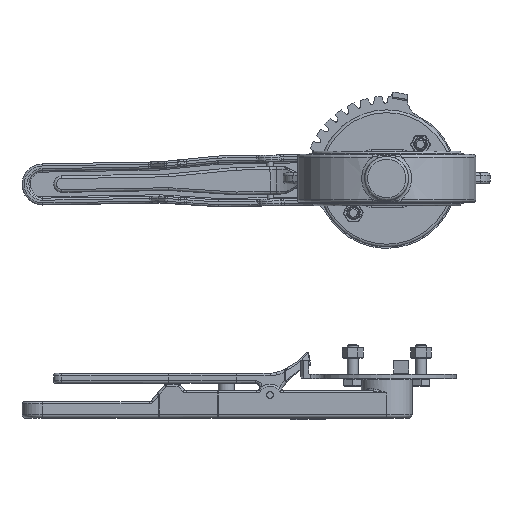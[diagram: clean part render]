
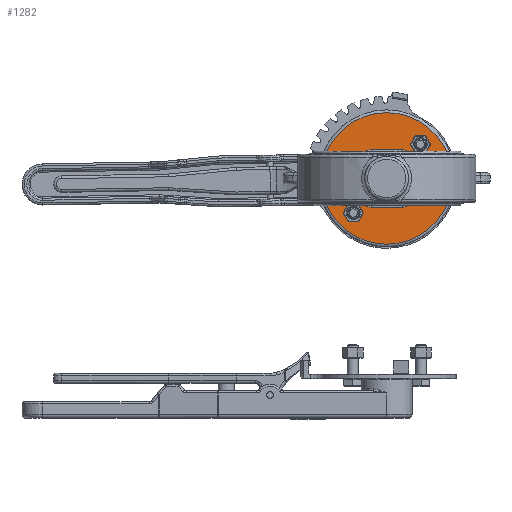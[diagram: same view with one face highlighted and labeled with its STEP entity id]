
A CAD part, front view. The second image highlights one B-rep face of the part: STEP entity #1282.
In plain terms, the highlighted planar face has unit normal (0, -1, 0).
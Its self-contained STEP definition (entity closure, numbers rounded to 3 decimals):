
#1282 = ADVANCED_FACE( '', ( #3282, #3283, #3284, #3285 ), #3286, .T. );
#3282 = FACE_BOUND( '', #6923, .T. );
#3283 = FACE_BOUND( '', #6924, .T. );
#3284 = FACE_OUTER_BOUND( '', #6925, .T. );
#3285 = FACE_BOUND( '', #6926, .T. );
#3286 = PLANE( '', #6927 );
#6923 = EDGE_LOOP( '', ( #15069 ) );
#6924 = EDGE_LOOP( '', ( #15070, #15071, #15072, #15073, #15074, #15075, #15076, #15077 ) );
#6925 = EDGE_LOOP( '', ( #15078 ) );
#6926 = EDGE_LOOP( '', ( #15079 ) );
#6927 = AXIS2_PLACEMENT_3D( '', #15080, #15081, #15082 );
#15069 = ORIENTED_EDGE( '', *, *, #23327, .T. );
#15070 = ORIENTED_EDGE( '', *, *, #23328, .T. );
#15071 = ORIENTED_EDGE( '', *, *, #22891, .T. );
#15072 = ORIENTED_EDGE( '', *, *, #23329, .T. );
#15073 = ORIENTED_EDGE( '', *, *, #23330, .T. );
#15074 = ORIENTED_EDGE( '', *, *, #23331, .T. );
#15075 = ORIENTED_EDGE( '', *, *, #23332, .T. );
#15076 = ORIENTED_EDGE( '', *, *, #23333, .T. );
#15077 = ORIENTED_EDGE( '', *, *, #23334, .T. );
#15078 = ORIENTED_EDGE( '', *, *, #23335, .T. );
#15079 = ORIENTED_EDGE( '', *, *, #23336, .T. );
#15080 = CARTESIAN_POINT( '', ( 0., 151., 0. ) );
#15081 = DIRECTION( '', ( 0., -1., 0. ) );
#15082 = DIRECTION( '', ( 0., 0., -1. ) );
#22891 = EDGE_CURVE( '', #25928, #25926, #25929, .F. );
#23327 = EDGE_CURVE( '', #26678, #26678, #26679, .F. );
#23328 = EDGE_CURVE( '', #26680, #25928, #26681, .F. );
#23329 = EDGE_CURVE( '', #25926, #26682, #26683, .F. );
#23330 = EDGE_CURVE( '', #26682, #26684, #26685, .F. );
#23331 = EDGE_CURVE( '', #26684, #26686, #26687, .F. );
#23332 = EDGE_CURVE( '', #26686, #26688, #26689, .F. );
#23333 = EDGE_CURVE( '', #26688, #26690, #26691, .F. );
#23334 = EDGE_CURVE( '', #26690, #26680, #26692, .F. );
#23335 = EDGE_CURVE( '', #26693, #26693, #26694, .T. );
#23336 = EDGE_CURVE( '', #26695, #26695, #26696, .F. );
#25926 = VERTEX_POINT( '', #31580 );
#25928 = VERTEX_POINT( '', #31582 );
#25929 = LINE( '', #31583, #31584 );
#26678 = VERTEX_POINT( '', #34809 );
#26679 = CIRCLE( '', #34810, 4.5 );
#26680 = VERTEX_POINT( '', #34811 );
#26681 = CIRCLE( '', #34812, 7. );
#26682 = VERTEX_POINT( '', #34813 );
#26683 = CIRCLE( '', #34814, 7. );
#26684 = VERTEX_POINT( '', #34815 );
#26685 = CIRCLE( '', #34816, 25. );
#26686 = VERTEX_POINT( '', #34817 );
#26687 = CIRCLE( '', #34818, 7. );
#26688 = VERTEX_POINT( '', #34819 );
#26689 = LINE( '', #34820, #34821 );
#26690 = VERTEX_POINT( '', #34822 );
#26691 = CIRCLE( '', #34823, 7. );
#26692 = CIRCLE( '', #34824, 25. );
#26693 = VERTEX_POINT( '', #34825 );
#26694 = CIRCLE( '', #34826, 48. );
#26695 = VERTEX_POINT( '', #34827 );
#26696 = CIRCLE( '', #34828, 4.5 );
#31580 = CARTESIAN_POINT( '', ( -11.314, 151., -21. ) );
#31582 = CARTESIAN_POINT( '', ( 11.314, 151., -21. ) );
#31583 = CARTESIAN_POINT( '', ( 0., 151., -21. ) );
#31584 = VECTOR( '', #45076, 1000. );
#34809 = CARTESIAN_POINT( '', ( 24.749, 151., 20.249 ) );
#34810 = AXIS2_PLACEMENT_3D( '', #45607, #45608, #45609 );
#34811 = CARTESIAN_POINT( '', ( 15.713, 151., -19.444 ) );
#34812 = AXIS2_PLACEMENT_3D( '', #45610, #45611, #45612 );
#34813 = CARTESIAN_POINT( '', ( -15.713, 151., -19.444 ) );
#34814 = AXIS2_PLACEMENT_3D( '', #45613, #45614, #45615 );
#34815 = CARTESIAN_POINT( '', ( -15.713, 151., 19.444 ) );
#34816 = AXIS2_PLACEMENT_3D( '', #45616, #45617, #45618 );
#34817 = CARTESIAN_POINT( '', ( -11.314, 151., 21. ) );
#34818 = AXIS2_PLACEMENT_3D( '', #45619, #45620, #45621 );
#34819 = CARTESIAN_POINT( '', ( 11.314, 151., 21. ) );
#34820 = CARTESIAN_POINT( '', ( 0., 151., 21. ) );
#34821 = VECTOR( '', #45622, 1000. );
#34822 = CARTESIAN_POINT( '', ( 15.713, 151., 19.444 ) );
#34823 = AXIS2_PLACEMENT_3D( '', #45623, #45624, #45625 );
#34824 = AXIS2_PLACEMENT_3D( '', #45626, #45627, #45628 );
#34825 = CARTESIAN_POINT( '', ( 0., 151., -48. ) );
#34826 = AXIS2_PLACEMENT_3D( '', #45629, #45630, #45631 );
#34827 = CARTESIAN_POINT( '', ( -23.711, 151., -28.211 ) );
#34828 = AXIS2_PLACEMENT_3D( '', #45632, #45633, #45634 );
#45076 = DIRECTION( '', ( 1., 0., 0. ) );
#45607 = CARTESIAN_POINT( '', ( 24.749, 151., 24.749 ) );
#45608 = DIRECTION( '', ( 0., -1., 0. ) );
#45609 = DIRECTION( '', ( 0., 0., -1. ) );
#45610 = CARTESIAN_POINT( '', ( 11.314, 151., -14. ) );
#45611 = DIRECTION( '', ( 0., -1., 0. ) );
#45612 = DIRECTION( '', ( 0., 0., -1. ) );
#45613 = CARTESIAN_POINT( '', ( -11.314, 151., -14. ) );
#45614 = DIRECTION( '', ( 0., -1., 0. ) );
#45615 = DIRECTION( '', ( 0., 0., -1. ) );
#45616 = CARTESIAN_POINT( '', ( 0., 151., 0. ) );
#45617 = DIRECTION( '', ( 0., -1., 0. ) );
#45618 = DIRECTION( '', ( 0., 0., -1. ) );
#45619 = CARTESIAN_POINT( '', ( -11.314, 151., 14. ) );
#45620 = DIRECTION( '', ( 0., -1., 0. ) );
#45621 = DIRECTION( '', ( 0., 0., -1. ) );
#45622 = DIRECTION( '', ( -1., 0., 0. ) );
#45623 = CARTESIAN_POINT( '', ( 11.314, 151., 14. ) );
#45624 = DIRECTION( '', ( 0., -1., 0. ) );
#45625 = DIRECTION( '', ( 0., 0., -1. ) );
#45626 = CARTESIAN_POINT( '', ( 0., 151., 0. ) );
#45627 = DIRECTION( '', ( 0., -1., 0. ) );
#45628 = DIRECTION( '', ( 0., 0., -1. ) );
#45629 = CARTESIAN_POINT( '', ( 0., 151., 0. ) );
#45630 = DIRECTION( '', ( 0., -1., 0. ) );
#45631 = DIRECTION( '', ( 0., 0., -1. ) );
#45632 = CARTESIAN_POINT( '', ( -23.711, 151., -23.711 ) );
#45633 = DIRECTION( '', ( 0., -1., 0. ) );
#45634 = DIRECTION( '', ( 0., 0., -1. ) );
